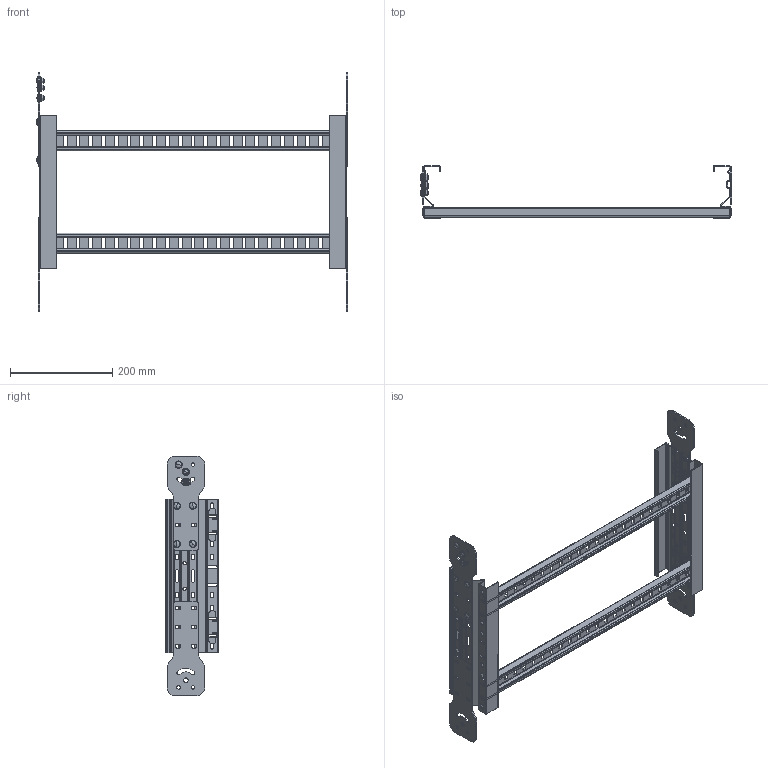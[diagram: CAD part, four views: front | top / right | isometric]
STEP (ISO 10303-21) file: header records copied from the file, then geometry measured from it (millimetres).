
FILE_DESCRIPTION (( 'STEP AP203' ), '1' );
FILE_NAME ('ULF016.STEP', '2015-04-01T12:30:46', ( '' ), ( '' ), 'SwSTEP 2.0', 'SolidWorks 2014', '' );
FILE_SCHEMA (( 'CONFIG_CONTROL_DESIGN' ));
Length unit declared in the file: millimetre
Products named in the file (11): áîëò+ãàéêà ì8(3.0mm); Traversino 39x19x1.5_600:(1,5); ULF016; 100õ2,5; ñîåäåíèòåëè øàðíèðíûå 100; Çåðêàëüíî îòðàçèòü100õ2,5; Çåðêàëüíî îòðàçèòüñîåäåíèòåëè øàðíèðíûå 100; Çåðêàëüíî îòðàçèòüñîåäåíèòåëè øàðíèðíûå 1001; Hex Flange Nut_AM_B18.2.2.4M - Hex flange nut, M6 x 1 --N; Square Neck Bolt 02_ISO_ISO 8678-M6x12-7-S; 鋋翲歑鍙 34mm H100_300
Assembly tree (21 placements, depth 3):
  ULF016
    鋋翲歑鍙 34mm H100_300  x2
    Traversino 39x19x1.5_600:(1,5)  x2
    ñîåäåíèòåëè øàðíèðíûå 100  x2
      100õ2,5
    Çåðêàëüíî îòðàçèòüñîåäåíèòåëè øàðíèðíûå 100
      Çåðêàëüíî îòðàçèòü100õ2,5
    Çåðêàëüíî îòðàçèòüñîåäåíèòåëè øàðíèðíûå 1001
      Çåðêàëüíî îòðàçèòü100õ2,5
    áîëò+ãàéêà ì8(3.0mm)  x8
      Hex Flange Nut_AM_B18.2.2.4M - Hex flange nut, M6 x 1 --N
      Square Neck Bolt 02_ISO_ISO 8678-M6x12-7-S
Bounding box: 608.6 x 101.9 x 468 mm (x, y, z)
Volume: 453019.6 mm3; surface area: 572173.5 mm2
Topology: 24 solids, 24 shells, 2600 faces, 6800 edges, 4228 vertices
Faces by surface type: plane 1044, cylinder 804, cone 376, bspline 288, torus 72, sphere 16
Entity records: 32736 total; most frequent: CARTESIAN_POINT 6953, ORIENTED_EDGE 5170, DIRECTION 4875, EDGE_CURVE 2585, VERTEX_POINT 1646, AXIS2_PLACEMENT_3D 1634, VECTOR 1607, LINE 1607
